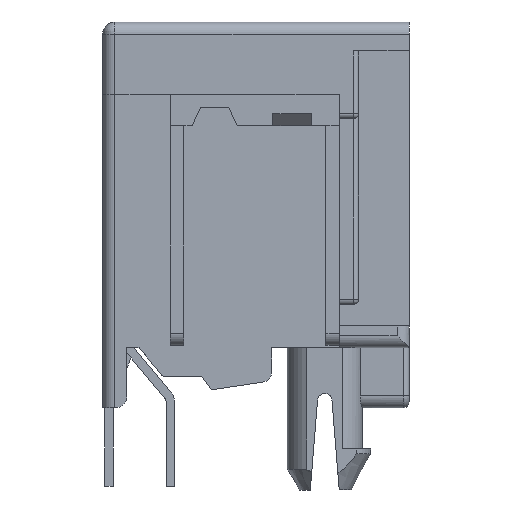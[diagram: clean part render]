
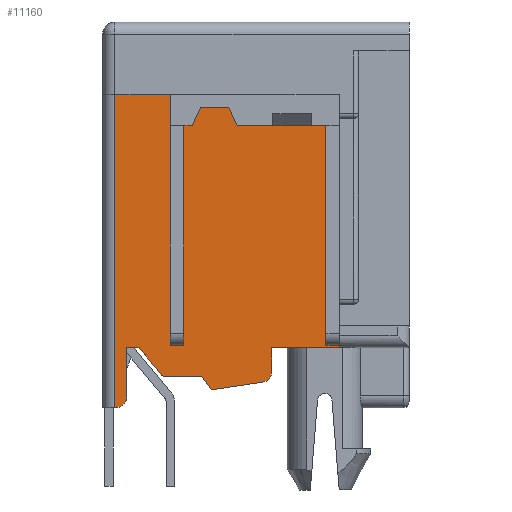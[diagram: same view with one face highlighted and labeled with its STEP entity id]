
A CAD part, left-side view. The second image highlights one B-rep face of the part: STEP entity #11160.
In plain terms, the highlighted planar face has unit normal (-1, 0, 0).
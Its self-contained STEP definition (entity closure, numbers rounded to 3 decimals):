
#824=DIRECTION('',(0.,1.,0.));
#825=VECTOR('',#824,2.8);
#826=CARTESIAN_POINT('',(-7.484,-2.927,15.6));
#827=LINE('',#826,#825);
#1749=DIRECTION('',(0.,0.,1.));
#1750=VECTOR('',#1749,0.1);
#1751=CARTESIAN_POINT('',(-7.484,-2.927,
15.6));
#1752=LINE('',#1751,#1750);
#1753=CARTESIAN_POINT('',(-7.484,0.273,
14.574));
#1754=DIRECTION('',(-1.,0.,0.));
#1755=DIRECTION('',(0.,-0.15,-0.989));
#1756=AXIS2_PLACEMENT_3D('',#1753,#1754,#1755);
#1758=DIRECTION('',(0.,-0.989,0.15));
#1759=VECTOR('',#1758,2.185);
#1760=CARTESIAN_POINT('',(-7.484,2.373,13.85));
#1761=LINE('',#1760,#1759);
#1762=DIRECTION('',(0.,-0.588,-0.809));
#1763=VECTOR('',#1762,0.68);
#1764=CARTESIAN_POINT('',(-7.484,2.773,14.4));
#1765=LINE('',#1764,#1763);
#1766=DIRECTION('',(0.,-0.64,-0.768));
#1767=VECTOR('',#1766,1.562);
#1768=CARTESIAN_POINT('',(-7.484,5.373,15.6));
#1769=LINE('',#1768,#1767);
#1770=DIRECTION('',(0.,-1.,0.));
#1771=VECTOR('',#1770,0.5);
#1772=CARTESIAN_POINT('',(-7.484,5.873,15.6));
#1773=LINE('',#1772,#1771);
#1774=CARTESIAN_POINT('',(-7.484,6.373,13.6));
#1775=DIRECTION('',(-1.,0.,0.));
#1776=DIRECTION('',(0.,0.,-1.));
#1777=AXIS2_PLACEMENT_3D('',#1774,#1775,#1776);
#1779=DIRECTION('',(0.,1.,0.));
#1780=VECTOR('',#1779,0.356);
#1781=CARTESIAN_POINT('',(-7.484,3.167,24.8));
#1782=LINE('',#1781,#1780);
#1783=DIRECTION('',(0.,0.418,-0.908));
#1784=VECTOR('',#1783,0.826);
#1785=CARTESIAN_POINT('',(-7.484,2.822,25.55));
#1786=LINE('',#1785,#1784);
#1787=DIRECTION('',(0.,1.,0.));
#1788=VECTOR('',#1787,1.17);
#1789=CARTESIAN_POINT('',(-7.484,1.652,25.55));
#1790=LINE('',#1789,#1788);
#1791=DIRECTION('',(0.,0.418,0.908));
#1792=VECTOR('',#1791,0.826);
#1793=CARTESIAN_POINT('',(-7.484,1.307,24.8));
#1794=LINE('',#1793,#1792);
#1811=DIRECTION('',(0.,-1.,0.));
#1812=VECTOR('',#1811,3.684);
#1813=CARTESIAN_POINT('',(-7.484,1.307,24.8));
#1814=LINE('',#1813,#1812);
#1879=DIRECTION('',(0.,0.,1.));
#1880=VECTOR('',#1879,9.1);
#1881=CARTESIAN_POINT('',(-7.484,3.523,15.7));
#1882=LINE('',#1881,#1880);
#1929=DIRECTION('',(0.,0.,-1.));
#1930=VECTOR('',#1929,10.4);
#1931=CARTESIAN_POINT('',(-7.484,4.073,26.1));
#1932=LINE('',#1931,#1930);
#1933=DIRECTION('',(0.,-1.,0.));
#1934=VECTOR('',#1933,2.3);
#1935=CARTESIAN_POINT('',(-7.484,6.373,26.1));
#1936=LINE('',#1935,#1934);
#1955=DIRECTION('',(0.,0.,1.));
#1956=VECTOR('',#1955,13.);
#1957=CARTESIAN_POINT('',(-7.484,6.373,13.1));
#1958=LINE('',#1957,#1956);
#2175=DIRECTION('',(0.,0.,-1.));
#2176=VECTOR('',#2175,2.);
#2177=CARTESIAN_POINT('',(-7.484,5.873,15.6));
#2178=LINE('',#2177,#2176);
#2195=DIRECTION('',(0.,1.,0.));
#2196=VECTOR('',#2195,1.6);
#2197=CARTESIAN_POINT('',(-7.484,2.773,14.4));
#2198=LINE('',#2197,#2196);
#2710=DIRECTION('',(0.,0.,-1.));
#2711=VECTOR('',#2710,1.026);
#2712=CARTESIAN_POINT('',(-7.484,-0.127,
15.6));
#2713=LINE('',#2712,#2711);
#6634=DIRECTION('',(0.,-1.,0.));
#6635=VECTOR('',#6634,0.55);
#6636=CARTESIAN_POINT('',(-7.484,4.073,15.7));
#6637=LINE('',#6636,#6635);
#6670=DIRECTION('',(0.,0.,-1.));
#6671=VECTOR('',#6670,9.1);
#6672=CARTESIAN_POINT('',(-7.484,-2.377,
24.8));
#6673=LINE('',#6672,#6671);
#6687=DIRECTION('',(0.,-1.,0.));
#6688=VECTOR('',#6687,0.55);
#6689=CARTESIAN_POINT('',(-7.484,-2.377,
15.7));
#6690=LINE('',#6689,#6688);
#7058=CARTESIAN_POINT('',(-7.484,0.213,
14.178));
#7059=CARTESIAN_POINT('',(-7.484,-0.127,
14.574));
#7060=VERTEX_POINT('',#7058);
#7061=VERTEX_POINT('',#7059);
#7153=CARTESIAN_POINT('',(-7.484,-0.127,
15.6));
#7155=VERTEX_POINT('',#7153);
#7220=CARTESIAN_POINT('',(-7.484,5.873,15.6));
#7221=CARTESIAN_POINT('',(-7.484,5.873,13.6));
#7222=VERTEX_POINT('',#7220);
#7223=VERTEX_POINT('',#7221);
#7607=CARTESIAN_POINT('',(-7.484,6.373,13.1));
#7608=VERTEX_POINT('',#7607);
#7835=CARTESIAN_POINT('',(-7.484,2.822,25.55));
#7836=VERTEX_POINT('',#7835);
#7837=CARTESIAN_POINT('',(-7.484,-2.377,
24.8));
#7838=CARTESIAN_POINT('',(-7.484,-2.377,
15.7));
#7839=VERTEX_POINT('',#7837);
#7840=VERTEX_POINT('',#7838);
#7969=CARTESIAN_POINT('',(-7.484,1.307,24.8));
#7970=VERTEX_POINT('',#7969);
#8011=CARTESIAN_POINT('',(-7.484,2.373,13.85));
#8012=VERTEX_POINT('',#8011);
#8083=CARTESIAN_POINT('',(-7.484,3.523,15.7));
#8085=VERTEX_POINT('',#8083);
#8132=CARTESIAN_POINT('',(-7.484,-2.927,
15.7));
#8133=VERTEX_POINT('',#8132);
#8136=CARTESIAN_POINT('',(-7.484,4.073,15.7));
#8137=VERTEX_POINT('',#8136);
#8465=CARTESIAN_POINT('',(-7.484,3.167,24.8));
#8467=VERTEX_POINT('',#8465);
#8638=CARTESIAN_POINT('',(-7.484,4.373,14.4));
#8639=VERTEX_POINT('',#8638);
#8747=CARTESIAN_POINT('',(-7.484,1.652,25.55));
#8748=VERTEX_POINT('',#8747);
#8813=CARTESIAN_POINT('',(-7.484,4.073,26.1));
#8814=VERTEX_POINT('',#8813);
#8815=CARTESIAN_POINT('',(-7.484,5.373,15.6));
#8816=VERTEX_POINT('',#8815);
#8837=CARTESIAN_POINT('',(-7.484,6.373,26.1));
#8838=VERTEX_POINT('',#8837);
#8916=CARTESIAN_POINT('',(-7.484,-2.927,
15.6));
#8917=VERTEX_POINT('',#8916);
#8922=CARTESIAN_POINT('',(-7.484,3.523,24.8));
#8923=VERTEX_POINT('',#8922);
#9017=CARTESIAN_POINT('',(-7.484,2.773,14.4));
#9018=VERTEX_POINT('',#9017);
#11109=CARTESIAN_POINT('',(-7.484,6.373,
13.6));
#11110=DIRECTION('',(-1.,0.,0.));
#11111=DIRECTION('',(0.,-1.,0.));
#11112=AXIS2_PLACEMENT_3D('',#11109,#11110,#11111);
#11113=PLANE('',#11112);
#11115=ORIENTED_EDGE('',*,*,#11114,.T.);
#11117=ORIENTED_EDGE('',*,*,#11116,.T.);
#11119=ORIENTED_EDGE('',*,*,#11118,.T.);
#11120=ORIENTED_EDGE('',*,*,#10639,.F.);
#11121=ORIENTED_EDGE('',*,*,#9920,.T.);
#11123=ORIENTED_EDGE('',*,*,#11122,.T.);
#11125=ORIENTED_EDGE('',*,*,#11124,.F.);
#11127=ORIENTED_EDGE('',*,*,#11126,.F.);
#11129=ORIENTED_EDGE('',*,*,#11128,.F.);
#11131=ORIENTED_EDGE('',*,*,#11130,.T.);
#11133=ORIENTED_EDGE('',*,*,#11132,.F.);
#11135=ORIENTED_EDGE('',*,*,#11134,.F.);
#11137=ORIENTED_EDGE('',*,*,#11136,.T.);
#11139=ORIENTED_EDGE('',*,*,#11138,.F.);
#11141=ORIENTED_EDGE('',*,*,#11140,.T.);
#11143=ORIENTED_EDGE('',*,*,#11142,.T.);
#11145=ORIENTED_EDGE('',*,*,#11144,.T.);
#11147=ORIENTED_EDGE('',*,*,#11146,.T.);
#11149=ORIENTED_EDGE('',*,*,#11148,.T.);
#11151=ORIENTED_EDGE('',*,*,#11150,.F.);
#11153=ORIENTED_EDGE('',*,*,#11152,.F.);
#11155=ORIENTED_EDGE('',*,*,#11154,.F.);
#11157=ORIENTED_EDGE('',*,*,#11156,.F.);
#11158=EDGE_LOOP('',(#11115,#11117,#11119,#11120,#11121,#11123,#11125,#11127,
#11129,#11131,#11133,#11135,#11137,#11139,#11141,#11143,#11145,#11147,#11149,
#11151,#11153,#11155,#11157));
#11159=FACE_OUTER_BOUND('',#11158,.F.);
#11160=ADVANCED_FACE('',(#11159),#11113,.T.);
#1757=CIRCLE('',#1756,0.4);
#1778=CIRCLE('',#1777,0.5);
#9920=EDGE_CURVE('',#8917,#7155,#827,.T.);
#10639=EDGE_CURVE('',#8917,#8133,#1752,.T.);
#11114=EDGE_CURVE('',#7970,#7839,#1814,.T.);
#11116=EDGE_CURVE('',#7839,#7840,#6673,.T.);
#11118=EDGE_CURVE('',#7840,#8133,#6690,.T.);
#11122=EDGE_CURVE('',#7155,#7061,#2713,.T.);
#11124=EDGE_CURVE('',#7060,#7061,#1757,.T.);
#11126=EDGE_CURVE('',#8012,#7060,#1761,.T.);
#11128=EDGE_CURVE('',#9018,#8012,#1765,.T.);
#11130=EDGE_CURVE('',#9018,#8639,#2198,.T.);
#11132=EDGE_CURVE('',#8816,#8639,#1769,.T.);
#11134=EDGE_CURVE('',#7222,#8816,#1773,.T.);
#11136=EDGE_CURVE('',#7222,#7223,#2178,.T.);
#11138=EDGE_CURVE('',#7608,#7223,#1778,.T.);
#11140=EDGE_CURVE('',#7608,#8838,#1958,.T.);
#11142=EDGE_CURVE('',#8838,#8814,#1936,.T.);
#11144=EDGE_CURVE('',#8814,#8137,#1932,.T.);
#11146=EDGE_CURVE('',#8137,#8085,#6637,.T.);
#11148=EDGE_CURVE('',#8085,#8923,#1882,.T.);
#11150=EDGE_CURVE('',#8467,#8923,#1782,.T.);
#11152=EDGE_CURVE('',#7836,#8467,#1786,.T.);
#11154=EDGE_CURVE('',#8748,#7836,#1790,.T.);
#11156=EDGE_CURVE('',#7970,#8748,#1794,.T.);
